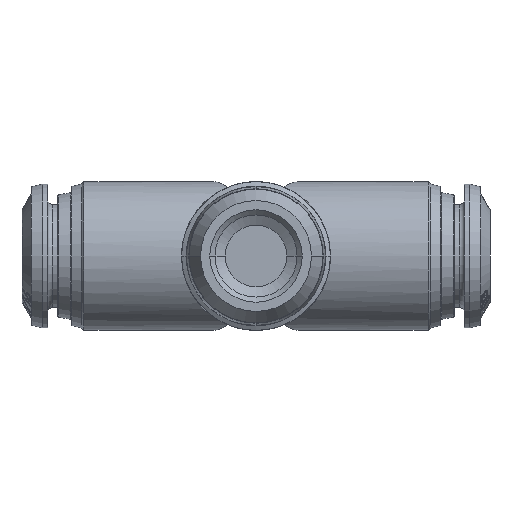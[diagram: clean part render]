
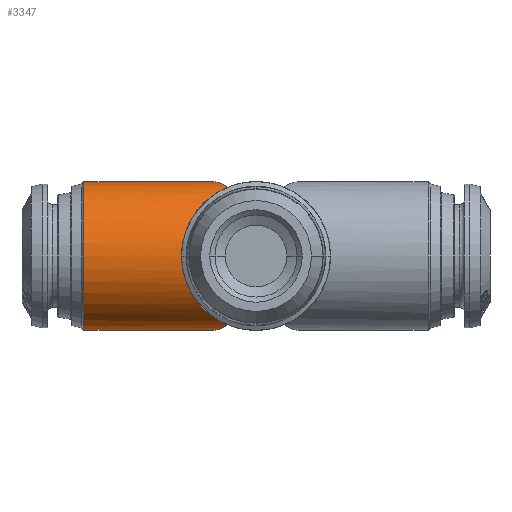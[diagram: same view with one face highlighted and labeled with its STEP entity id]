
A CAD part, front view. The second image highlights one B-rep face of the part: STEP entity #3347.
In plain terms, the highlighted cylindrical face has radius 7.25 mm (diameter 14.5 mm), a partial arc.
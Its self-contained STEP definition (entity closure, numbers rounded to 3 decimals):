
#1084 = FACE_OUTER_BOUND ( 'NONE', #9175, .T. ) ;
#1092 = CYLINDRICAL_SURFACE ( 'NONE', #4248, 7.25 ) ;
#1734 = DIRECTION ( 'NONE',  ( -1., 0., 0. ) ) ;
#1745 = CARTESIAN_POINT ( 'NONE',  ( -19., 0., 0. ) ) ;
#1753 = DIRECTION ( 'NONE',  ( 0., 0., 1. ) ) ;
#3347 = ADVANCED_FACE ( 'NONE', ( #1084 ), #1092, .T. ) ;
#3561 = VERTEX_POINT ( 'NONE', #28510 ) ;
#3570 = VERTEX_POINT ( 'NONE', #28519 ) ;
#3571 = VERTEX_POINT ( 'NONE', #28520 ) ;
#3596 = VERTEX_POINT ( 'NONE', #28545 ) ;
#3598 = VERTEX_POINT ( 'NONE', #28547 ) ;
#3861 = AXIS2_PLACEMENT_3D ( 'NONE', #16797, #16798, #16799 ) ;
#4248 = AXIS2_PLACEMENT_3D ( 'NONE', #1745, #1734, #1753 ) ;
#6370 = CARTESIAN_POINT ( 'NONE',  ( -4.314, 0., -7.25 ) ) ;
#6371 = CARTESIAN_POINT ( 'NONE',  ( -4.312, -0.004, -7.25 ) ) ;
#6372 = CARTESIAN_POINT ( 'NONE',  ( -2.735, -2.735, -6.714 ) ) ;
#7135 = B_SPLINE_CURVE_WITH_KNOTS ( 'NONE', 3,
 ( #10313, #10312, #10318, #10319 ),
 .UNSPECIFIED., .F., .F.,
 ( 4, 4 ),
 ( 0., 0.003 ),
 .UNSPECIFIED. ) ;
#7136 = B_SPLINE_CURVE_WITH_KNOTS ( 'NONE', 3,
 ( #10317, #10316, #10322, #10323, #10324, #10325 ),
 .UNSPECIFIED., .F., .F.,
 ( 4, 2, 4 ),
 ( 0., 0.493, 1. ),
 .UNSPECIFIED. ) ;
#8798 = ORIENTED_EDGE ( 'NONE', *, *, #13962, .F. ) ;
#8799 = ORIENTED_EDGE ( 'NONE', *, *, #23968, .F. ) ;
#8800 = ORIENTED_EDGE ( 'NONE', *, *, #23969, .F. ) ;
#8801 = ORIENTED_EDGE ( 'NONE', *, *, #13972, .F. ) ;
#8802 = ORIENTED_EDGE ( 'NONE', *, *, #13949, .F. ) ;
#8803 = ORIENTED_EDGE ( 'NONE', *, *, #13973, .F. ) ;
#8804 = ORIENTED_EDGE ( 'NONE', *, *, #13963, .T. ) ;
#8805 = ORIENTED_EDGE ( 'NONE', *, *, #13974, .T. ) ;
#9175 = EDGE_LOOP ( 'NONE', ( #8798, #8799, #8800, #8801, #8802, #8803, #8804, #8805 ) ) ;
#10312 = CARTESIAN_POINT ( 'NONE',  ( -4.313, -0.003, -7.25 ) ) ;
#10313 = CARTESIAN_POINT ( 'NONE',  ( -4.312, -0.004, -7.25 ) ) ;
#10316 = CARTESIAN_POINT ( 'NONE',  ( -2.981, -2.309, -6.888 ) ) ;
#10317 = CARTESIAN_POINT ( 'NONE',  ( -2.735, -2.735, -6.714 ) ) ;
#10318 = CARTESIAN_POINT ( 'NONE',  ( -4.313, -0.001, -7.25 ) ) ;
#10319 = CARTESIAN_POINT ( 'NONE',  ( -4.314, 0., -7.25 ) ) ;
#10322 = CARTESIAN_POINT ( 'NONE',  ( -3.237, -1.866, -7.021 ) ) ;
#10323 = CARTESIAN_POINT ( 'NONE',  ( -3.766, -0.95, -7.203 ) ) ;
#10324 = CARTESIAN_POINT ( 'NONE',  ( -4.039, -0.477, -7.25 ) ) ;
#10325 = CARTESIAN_POINT ( 'NONE',  ( -4.312, -0.004, -7.25 ) ) ;
#13949 = EDGE_CURVE ( 'NONE', #3571, #3570, #27858, .T. ) ;
#13962 = EDGE_CURVE ( 'NONE', #19501, #3598, #20017, .T. ) ;
#13963 = EDGE_CURVE ( 'NONE', #3561, #3596, #20018, .T. ) ;
#13972 = EDGE_CURVE ( 'NONE', #3570, #19503, #27874, .T. ) ;
#13973 = EDGE_CURVE ( 'NONE', #3561, #3571, #27875, .T. ) ;
#13974 = EDGE_CURVE ( 'NONE', #3596, #3598, #20024, .T. ) ;
#16691 = CARTESIAN_POINT ( 'NONE',  ( -2.735, -2.735, 6.714 ) ) ;
#16692 = CARTESIAN_POINT ( 'NONE',  ( -5.552, -5.552, 5.567 ) ) ;
#16697 = CARTESIAN_POINT ( 'NONE',  ( -7.25, -7.25, 3.042 ) ) ;
#16698 = CARTESIAN_POINT ( 'NONE',  ( -7.25, -7.25, 0. ) ) ;
#16743 = CARTESIAN_POINT ( 'NONE',  ( -19., 0., -7.25 ) ) ;
#16750 = DIRECTION ( 'NONE',  ( -1., 0., 0. ) ) ;
#16751 = CARTESIAN_POINT ( 'NONE',  ( -19., 0., 7.25 ) ) ;
#16753 = DIRECTION ( 'NONE',  ( -1., 0., 0. ) ) ;
#16781 = CARTESIAN_POINT ( 'NONE',  ( -4.314, 0., 7.25 ) ) ;
#16782 = CARTESIAN_POINT ( 'NONE',  ( -4.04, -0.475, 7.25 ) ) ;
#16786 = CARTESIAN_POINT ( 'NONE',  ( -7.25, -7.25, 0. ) ) ;
#16787 = CARTESIAN_POINT ( 'NONE',  ( -7.25, -7.25, -3.042 ) ) ;
#16791 = CARTESIAN_POINT ( 'NONE',  ( -5.552, -5.552, -5.567 ) ) ;
#16792 = CARTESIAN_POINT ( 'NONE',  ( -2.735, -2.735, -6.714 ) ) ;
#16793 = CARTESIAN_POINT ( 'NONE',  ( -3.766, -0.949, 7.203 ) ) ;
#16794 = CARTESIAN_POINT ( 'NONE',  ( -3.237, -1.866, 7.021 ) ) ;
#16795 = CARTESIAN_POINT ( 'NONE',  ( -2.981, -2.309, 6.888 ) ) ;
#16796 = CARTESIAN_POINT ( 'NONE',  ( -2.735, -2.735, 6.714 ) ) ;
#16797 = CARTESIAN_POINT ( 'NONE',  ( -16.768, 0., 0. ) ) ;
#16798 = DIRECTION ( 'NONE',  ( 1., 0., 0. ) ) ;
#16799 = DIRECTION ( 'NONE',  ( 0., 0., -1. ) ) ;
#19501 = VERTEX_POINT ( 'NONE', #6370 ) ;
#19502 = VERTEX_POINT ( 'NONE', #6371 ) ;
#19503 = VERTEX_POINT ( 'NONE', #6372 ) ;
#20017 = LINE ( 'NONE', #16743, #20019 ) ;
#20018 = LINE ( 'NONE', #16751, #20021 ) ;
#20019 = VECTOR ( 'NONE', #16750, 1000. ) ;
#20021 = VECTOR ( 'NONE', #16753, 1000. ) ;
#20024 = CIRCLE ( 'NONE', #3861, 7.25 ) ;
#23968 = EDGE_CURVE ( 'NONE', #19502, #19501, #7135, .T. ) ;
#23969 = EDGE_CURVE ( 'NONE', #19503, #19502, #7136, .T. ) ;
#27858 =( BOUNDED_CURVE ( )  B_SPLINE_CURVE ( 3, ( #16691, #16692, #16697, #16698 ),
 .UNSPECIFIED., .F., .F. ) 
 B_SPLINE_CURVE_WITH_KNOTS ( ( 4, 4 ),
 ( 5.099, 6.283 ),
 .UNSPECIFIED. ) 
 CURVE ( )  GEOMETRIC_REPRESENTATION_ITEM ( )  RATIONAL_B_SPLINE_CURVE ( ( 1., 0.887, 0.887, 1. ) ) 
 REPRESENTATION_ITEM ( '' )  );
#27874 =( BOUNDED_CURVE ( )  B_SPLINE_CURVE ( 3, ( #16786, #16787, #16791, #16792 ),
 .UNSPECIFIED., .F., .F. ) 
 B_SPLINE_CURVE_WITH_KNOTS ( ( 4, 4 ),
 ( 0., 1.184 ),
 .UNSPECIFIED. ) 
 CURVE ( )  GEOMETRIC_REPRESENTATION_ITEM ( )  RATIONAL_B_SPLINE_CURVE ( ( 1., 0.887, 0.887, 1. ) ) 
 REPRESENTATION_ITEM ( '' )  );
#27875 = B_SPLINE_CURVE_WITH_KNOTS ( 'NONE', 3,
 ( #16781, #16782, #16793, #16794, #16795, #16796 ),
 .UNSPECIFIED., .F., .F.,
 ( 4, 2, 4 ),
 ( 0.52, 0.764, 1. ),
 .UNSPECIFIED. ) ;
#28510 = CARTESIAN_POINT ( 'NONE',  ( -4.314, 0., 7.25 ) ) ;
#28519 = CARTESIAN_POINT ( 'NONE',  ( -7.25, -7.25, 0. ) ) ;
#28520 = CARTESIAN_POINT ( 'NONE',  ( -2.735, -2.735, 6.714 ) ) ;
#28545 = CARTESIAN_POINT ( 'NONE',  ( -16.768, 0., 7.25 ) ) ;
#28547 = CARTESIAN_POINT ( 'NONE',  ( -16.768, 0., -7.25 ) ) ;
